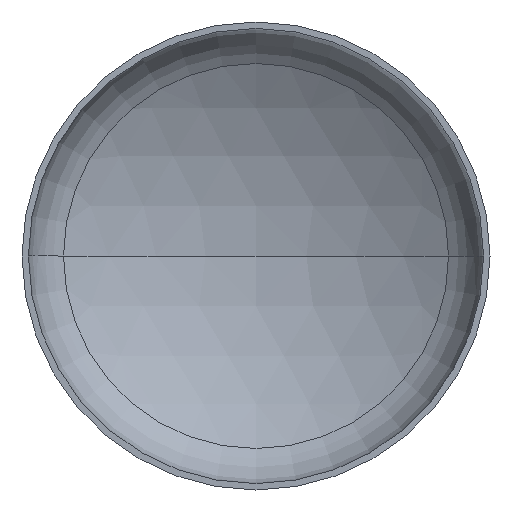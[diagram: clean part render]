
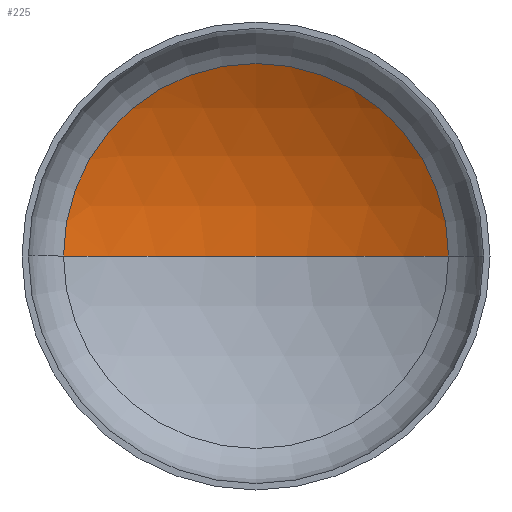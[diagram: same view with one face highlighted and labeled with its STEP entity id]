
A CAD part, front view. The second image highlights one B-rep face of the part: STEP entity #225.
In plain terms, the highlighted spherical face has radius 1920 mm.
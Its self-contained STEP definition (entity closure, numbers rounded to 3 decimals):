
#2 = FACE_OUTER_BOUND ( 'NONE', #115, .T. ) ;
#3 = VERTEX_POINT ( 'NONE', #257 ) ;
#7 = DIRECTION ( 'NONE',  ( -1., 0., 0. ) ) ;
#36 = CARTESIAN_POINT ( 'NONE',  ( 0., -1229.395, 0. ) ) ;
#64 = DIRECTION ( 'NONE',  ( 1., 0., 0. ) ) ;
#65 = AXIS2_PLACEMENT_3D ( 'NONE', #166, #264, #70 ) ;
#70 = DIRECTION ( 'NONE',  ( -1., 0., 0. ) ) ;
#90 = AXIS2_PLACEMENT_3D ( 'NONE', #36, #231, #94 ) ;
#91 = CIRCLE ( 'NONE', #90, 1920. ) ;
#94 = DIRECTION ( 'NONE',  ( 1., 0., 0. ) ) ;
#115 = EDGE_LOOP ( 'NONE', ( #403, #263, #220 ) ) ;
#123 = CARTESIAN_POINT ( 'NONE',  ( 0., -1229.395, 0. ) ) ;
#133 = AXIS2_PLACEMENT_3D ( 'NONE', #123, #359, #7 ) ;
#166 = CARTESIAN_POINT ( 'NONE',  ( 0., -1229.395, 0. ) ) ;
#170 = EDGE_CURVE ( 'NONE', #322, #277, #351, .T. ) ;
#188 = EDGE_CURVE ( 'NONE', #3, #322, #346, .T. ) ;
#211 = EDGE_CURVE ( 'NONE', #3, #277, #91, .T. ) ;
#220 = ORIENTED_EDGE ( 'NONE', *, *, #170, .T. ) ;
#225 = ADVANCED_FACE ( 'NONE', ( #2 ), #249, .F. ) ;
#228 = CARTESIAN_POINT ( 'NONE',  ( 0., 417.339, 0. ) ) ;
#231 = DIRECTION ( 'NONE',  ( 0., 0., 1. ) ) ;
#249 = SPHERICAL_SURFACE ( 'NONE', #133, 1920. ) ;
#256 = DIRECTION ( 'NONE',  ( 0., -1., 0. ) ) ;
#257 = CARTESIAN_POINT ( 'NONE',  ( 0., 690.605, 0. ) ) ;
#263 = ORIENTED_EDGE ( 'NONE', *, *, #188, .T. ) ;
#264 = DIRECTION ( 'NONE',  ( 0., 0., -1. ) ) ;
#265 = CARTESIAN_POINT ( 'NONE',  ( 987.252, 417.339, 0. ) ) ;
#277 = VERTEX_POINT ( 'NONE', #388 ) ;
#322 = VERTEX_POINT ( 'NONE', #265 ) ;
#346 = CIRCLE ( 'NONE', #65, 1920. ) ;
#351 = CIRCLE ( 'NONE', #390, 987.252 ) ;
#359 = DIRECTION ( 'NONE',  ( 0., 0., -1. ) ) ;
#388 = CARTESIAN_POINT ( 'NONE',  ( -987.252, 417.339, 0. ) ) ;
#390 = AXIS2_PLACEMENT_3D ( 'NONE', #228, #256, #64 ) ;
#403 = ORIENTED_EDGE ( 'NONE', *, *, #211, .F. ) ;
